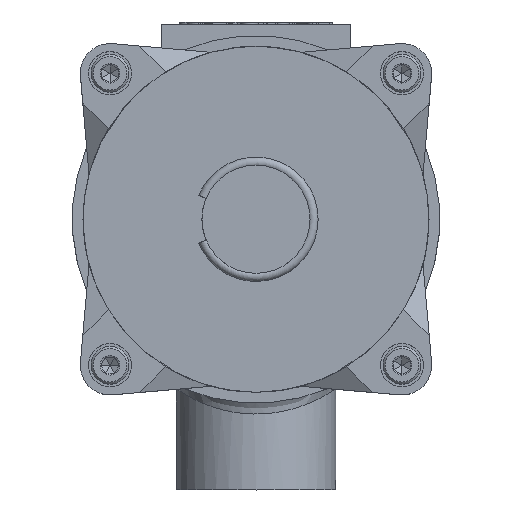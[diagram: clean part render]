
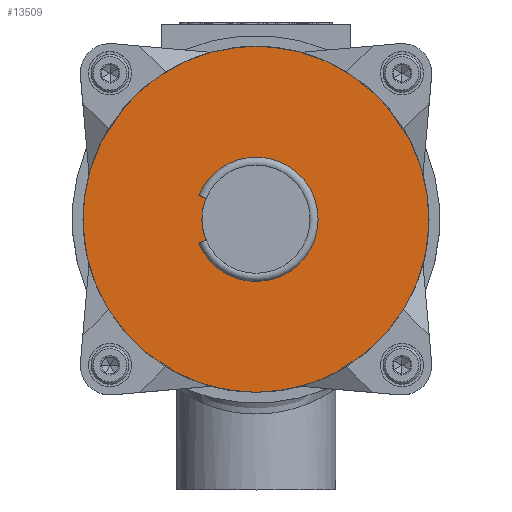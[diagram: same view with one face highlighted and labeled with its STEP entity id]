
A CAD part, top view. The second image highlights one B-rep face of the part: STEP entity #13509.
In plain terms, the highlighted planar face has unit normal (0, 0, 1) as drawn and (0, 0, -1) by its records, which use the part's own axes.
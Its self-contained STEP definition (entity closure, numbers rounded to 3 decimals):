
#1775=PLANE('',#14254);
#2155=CIRCLE('',#14161,10.);
#2183=CIRCLE('',#14224,32.);
#2931=ORIENTED_EDGE('',*,*,#5258,.T.);
#2932=ORIENTED_EDGE('',*,*,#5179,.F.);
#5179=EDGE_CURVE('',#6402,#6402,#2155,.T.);
#5258=EDGE_CURVE('',#6465,#6465,#2183,.T.);
#6402=VERTEX_POINT('',#19538);
#6465=VERTEX_POINT('',#19757);
#7416=EDGE_LOOP('',(#2931));
#7417=EDGE_LOOP('',(#2932));
#8285=FACE_BOUND('',#7416,.T.);
#8286=FACE_BOUND('',#7417,.T.);
#13509=ADVANCED_FACE('',(#8285,#8286),#1775,.F.);
#14161=AXIS2_PLACEMENT_3D('',#19537,#15373,#15374);
#14224=AXIS2_PLACEMENT_3D('',#19756,#15537,#15538);
#14254=AXIS2_PLACEMENT_3D('',#19842,#15620,#15621);
#15373=DIRECTION('',(0.,0.,-1.));
#15374=DIRECTION('',(0.,1.,0.));
#15537=DIRECTION('',(0.,0.,-1.));
#15538=DIRECTION('',(0.,1.,0.));
#15620=DIRECTION('',(0.,0.,1.));
#15621=DIRECTION('',(1.,0.,0.));
#19537=CARTESIAN_POINT('',(0.,0.,-90.56));
#19538=CARTESIAN_POINT('',(0.,10.,-90.56));
#19756=CARTESIAN_POINT('',(0.,0.,-90.56));
#19757=CARTESIAN_POINT('',(0.,32.,-90.56));
#19842=CARTESIAN_POINT('',(0.,-32.,-90.56));
